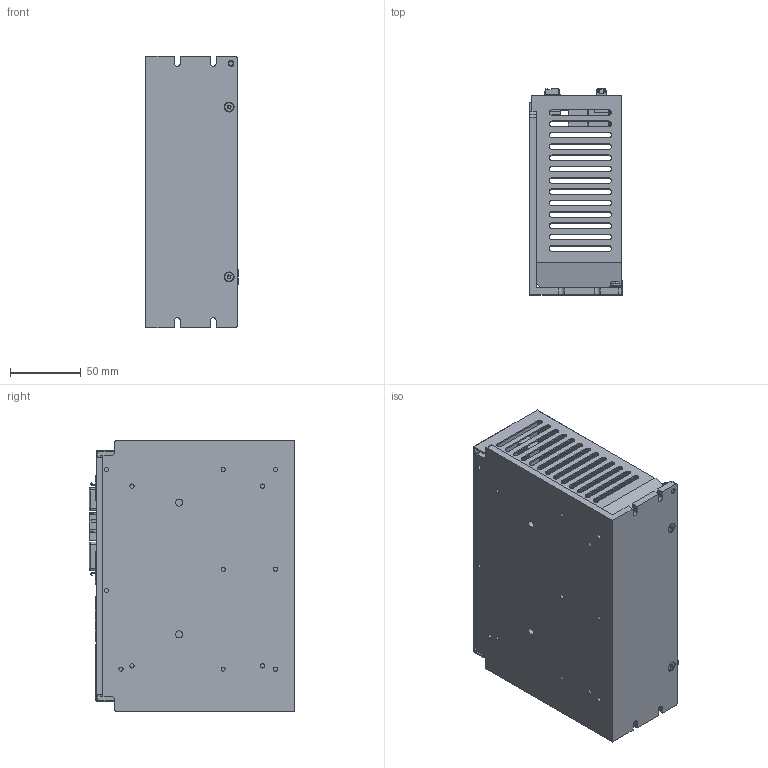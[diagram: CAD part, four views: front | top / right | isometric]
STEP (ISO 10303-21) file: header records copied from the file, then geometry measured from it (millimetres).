
FILE_DESCRIPTION (( 'STEP AP203' ), '1' );
FILE_NAME ('D1-xx-xx-x-0-xx.STEP', '2013-06-13T11:13:49', ( '' ), ( '' ), 'SwSTEP 2.0', 'SolidWorks 2010', '' );
FILE_SCHEMA (( 'CONFIG_CONTROL_DESIGN' ));
Products named in the file (1): D1-xx-xx-x-0-xx
Bounding box: 65.5 x 145.41 x 191.6 mm (x, y, z)
Volume: 255995.8 mm3; surface area: 207511.5 mm2
Topology: 29 solids, 29 shells, 3222 faces, 8455 edges, 5586 vertices
Faces by surface type: plane 2165, cylinder 534, bspline 481, cone 30, torus 8, sphere 4
Entity records: 122925 total; most frequent: CARTESIAN_POINT 45423, ORIENTED_EDGE 16902, DIRECTION 14010, EDGE_CURVE 8451, VECTOR 6276, LINE 6276, VERTEX_POINT 5584, AXIS2_PLACEMENT_3D 3867
